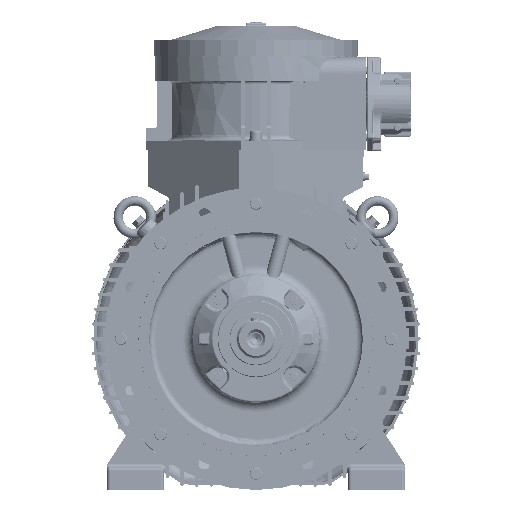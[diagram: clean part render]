
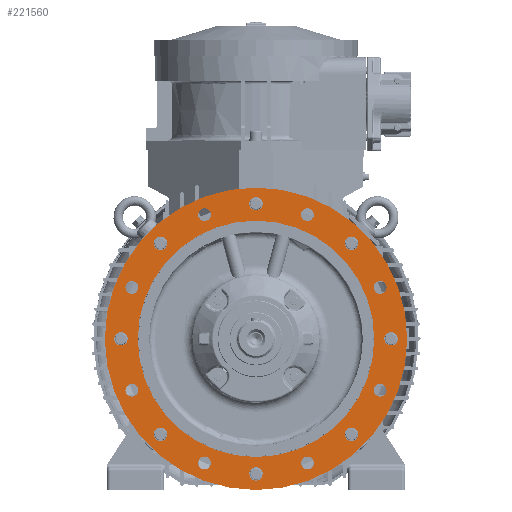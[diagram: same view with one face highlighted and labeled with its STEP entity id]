
A CAD part, left-side view. The second image highlights one B-rep face of the part: STEP entity #221560.
In plain terms, the highlighted planar face has unit normal (-1, 0, 0).
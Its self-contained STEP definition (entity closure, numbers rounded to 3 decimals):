
#38364=PLANE('',#233683);
#42128=CIRCLE('',#233607,9.5);
#42130=CIRCLE('',#233610,9.5);
#42132=CIRCLE('',#233613,9.5);
#42134=CIRCLE('',#233616,9.5);
#42136=CIRCLE('',#233619,9.5);
#42138=CIRCLE('',#233622,9.5);
#42140=CIRCLE('',#233625,9.5);
#42142=CIRCLE('',#233628,9.5);
#42143=CIRCLE('',#233630,175.919);
#42147=CIRCLE('',#233640,10.);
#42149=CIRCLE('',#233644,10.);
#42151=CIRCLE('',#233648,10.);
#42153=CIRCLE('',#233652,10.);
#42155=CIRCLE('',#233656,10.);
#42157=CIRCLE('',#233660,10.);
#42159=CIRCLE('',#233664,10.);
#42161=CIRCLE('',#233668,10.);
#42167=CIRCLE('',#233684,225.);
#80612=ORIENTED_EDGE('',*,*,#107318,.F.);
#80613=ORIENTED_EDGE('',*,*,#107286,.T.);
#80614=ORIENTED_EDGE('',*,*,#107284,.T.);
#80615=ORIENTED_EDGE('',*,*,#107282,.T.);
#80616=ORIENTED_EDGE('',*,*,#107280,.T.);
#80617=ORIENTED_EDGE('',*,*,#107278,.T.);
#80618=ORIENTED_EDGE('',*,*,#107276,.T.);
#80619=ORIENTED_EDGE('',*,*,#107274,.T.);
#80620=ORIENTED_EDGE('',*,*,#107272,.T.);
#80621=ORIENTED_EDGE('',*,*,#107268,.T.);
#80622=ORIENTED_EDGE('',*,*,#107267,.F.);
#80623=ORIENTED_EDGE('',*,*,#107265,.F.);
#80624=ORIENTED_EDGE('',*,*,#107263,.F.);
#80625=ORIENTED_EDGE('',*,*,#107261,.F.);
#80626=ORIENTED_EDGE('',*,*,#107259,.F.);
#80627=ORIENTED_EDGE('',*,*,#107257,.F.);
#80628=ORIENTED_EDGE('',*,*,#107255,.F.);
#80629=ORIENTED_EDGE('',*,*,#107253,.F.);
#107253=EDGE_CURVE('',#123496,#123496,#42128,.T.);
#107255=EDGE_CURVE('',#123498,#123498,#42130,.T.);
#107257=EDGE_CURVE('',#123500,#123500,#42132,.T.);
#107259=EDGE_CURVE('',#123502,#123502,#42134,.T.);
#107261=EDGE_CURVE('',#123504,#123504,#42136,.T.);
#107263=EDGE_CURVE('',#123506,#123506,#42138,.T.);
#107265=EDGE_CURVE('',#123508,#123508,#42140,.T.);
#107267=EDGE_CURVE('',#123510,#123510,#42142,.T.);
#107268=EDGE_CURVE('',#123511,#123511,#42143,.T.);
#107272=EDGE_CURVE('',#123515,#123515,#42147,.T.);
#107274=EDGE_CURVE('',#123517,#123517,#42149,.T.);
#107276=EDGE_CURVE('',#123519,#123519,#42151,.T.);
#107278=EDGE_CURVE('',#123521,#123521,#42153,.T.);
#107280=EDGE_CURVE('',#123523,#123523,#42155,.T.);
#107282=EDGE_CURVE('',#123525,#123525,#42157,.T.);
#107284=EDGE_CURVE('',#123527,#123527,#42159,.T.);
#107286=EDGE_CURVE('',#123529,#123529,#42161,.T.);
#107318=EDGE_CURVE('',#123555,#123555,#42167,.T.);
#123496=VERTEX_POINT('',#333248);
#123498=VERTEX_POINT('',#333253);
#123500=VERTEX_POINT('',#333258);
#123502=VERTEX_POINT('',#333263);
#123504=VERTEX_POINT('',#333268);
#123506=VERTEX_POINT('',#333273);
#123508=VERTEX_POINT('',#333278);
#123510=VERTEX_POINT('',#333283);
#123511=VERTEX_POINT('',#333286);
#123515=VERTEX_POINT('',#333300);
#123517=VERTEX_POINT('',#333306);
#123519=VERTEX_POINT('',#333312);
#123521=VERTEX_POINT('',#333318);
#123523=VERTEX_POINT('',#333324);
#123525=VERTEX_POINT('',#333330);
#123527=VERTEX_POINT('',#333336);
#123529=VERTEX_POINT('',#333342);
#123555=VERTEX_POINT('',#333410);
#136997=EDGE_LOOP('',(#80612));
#136998=EDGE_LOOP('',(#80613));
#136999=EDGE_LOOP('',(#80614));
#137000=EDGE_LOOP('',(#80615));
#137001=EDGE_LOOP('',(#80616));
#137002=EDGE_LOOP('',(#80617));
#137003=EDGE_LOOP('',(#80618));
#137004=EDGE_LOOP('',(#80619));
#137005=EDGE_LOOP('',(#80620));
#137006=EDGE_LOOP('',(#80621));
#137007=EDGE_LOOP('',(#80622));
#137008=EDGE_LOOP('',(#80623));
#137009=EDGE_LOOP('',(#80624));
#137010=EDGE_LOOP('',(#80625));
#137011=EDGE_LOOP('',(#80626));
#137012=EDGE_LOOP('',(#80627));
#137013=EDGE_LOOP('',(#80628));
#137014=EDGE_LOOP('',(#80629));
#148947=FACE_BOUND('',#136997,.T.);
#148948=FACE_BOUND('',#136998,.T.);
#148949=FACE_BOUND('',#136999,.T.);
#148950=FACE_BOUND('',#137000,.T.);
#148951=FACE_BOUND('',#137001,.T.);
#148952=FACE_BOUND('',#137002,.T.);
#148953=FACE_BOUND('',#137003,.T.);
#148954=FACE_BOUND('',#137004,.T.);
#148955=FACE_BOUND('',#137005,.T.);
#148956=FACE_BOUND('',#137006,.T.);
#148957=FACE_BOUND('',#137007,.T.);
#148958=FACE_BOUND('',#137008,.T.);
#148959=FACE_BOUND('',#137009,.T.);
#148960=FACE_BOUND('',#137010,.T.);
#148961=FACE_BOUND('',#137011,.T.);
#148962=FACE_BOUND('',#137012,.T.);
#148963=FACE_BOUND('',#137013,.T.);
#148964=FACE_BOUND('',#137014,.T.);
#221560=ADVANCED_FACE('',(#148947,#148948,#148949,#148950,#148951,#148952,
#148953,#148954,#148955,#148956,#148957,#148958,#148959,#148960,#148961,
#148962,#148963,#148964),#38364,.F.);
#233607=AXIS2_PLACEMENT_3D('',#333247,#270965,#270966);
#233610=AXIS2_PLACEMENT_3D('',#333252,#270971,#270972);
#233613=AXIS2_PLACEMENT_3D('',#333257,#270977,#270978);
#233616=AXIS2_PLACEMENT_3D('',#333262,#270983,#270984);
#233619=AXIS2_PLACEMENT_3D('',#333267,#270989,#270990);
#233622=AXIS2_PLACEMENT_3D('',#333272,#270995,#270996);
#233625=AXIS2_PLACEMENT_3D('',#333277,#271001,#271002);
#233628=AXIS2_PLACEMENT_3D('',#333282,#271007,#271008);
#233630=AXIS2_PLACEMENT_3D('',#333285,#271011,#271012);
#233640=AXIS2_PLACEMENT_3D('',#333299,#271031,#271032);
#233644=AXIS2_PLACEMENT_3D('',#333305,#271039,#271040);
#233648=AXIS2_PLACEMENT_3D('',#333311,#271047,#271048);
#233652=AXIS2_PLACEMENT_3D('',#333317,#271055,#271056);
#233656=AXIS2_PLACEMENT_3D('',#333323,#271063,#271064);
#233660=AXIS2_PLACEMENT_3D('',#333329,#271071,#271072);
#233664=AXIS2_PLACEMENT_3D('',#333335,#271079,#271080);
#233668=AXIS2_PLACEMENT_3D('',#333341,#271087,#271088);
#233683=AXIS2_PLACEMENT_3D('',#333408,#271143,#271144);
#233684=AXIS2_PLACEMENT_3D('',#333409,#271145,#271146);
#270965=DIRECTION('',(-1.,0.,0.));
#270966=DIRECTION('',(0.,-1.,0.));
#270971=DIRECTION('',(-1.,0.,0.));
#270972=DIRECTION('',(0.,-1.,0.));
#270977=DIRECTION('',(-1.,0.,0.));
#270978=DIRECTION('',(0.,-1.,0.));
#270983=DIRECTION('',(-1.,0.,0.));
#270984=DIRECTION('',(0.,-1.,0.));
#270989=DIRECTION('',(-1.,0.,0.));
#270990=DIRECTION('',(0.,-1.,0.));
#270995=DIRECTION('',(-1.,0.,0.));
#270996=DIRECTION('',(0.,-1.,0.));
#271001=DIRECTION('',(-1.,0.,0.));
#271002=DIRECTION('',(0.,-1.,0.));
#271007=DIRECTION('',(-1.,0.,0.));
#271008=DIRECTION('',(0.,-1.,0.));
#271011=DIRECTION('',(1.,0.,0.));
#271012=DIRECTION('',(0.,0.,1.));
#271031=DIRECTION('',(1.,0.,0.));
#271032=DIRECTION('',(0.,0.,-1.));
#271039=DIRECTION('',(1.,0.,0.));
#271040=DIRECTION('',(0.,0.,-1.));
#271047=DIRECTION('',(1.,0.,0.));
#271048=DIRECTION('',(0.,0.,-1.));
#271055=DIRECTION('',(1.,0.,0.));
#271056=DIRECTION('',(0.,0.,-1.));
#271063=DIRECTION('',(1.,0.,0.));
#271064=DIRECTION('',(0.,0.,-1.));
#271071=DIRECTION('',(1.,0.,0.));
#271072=DIRECTION('',(0.,0.,-1.));
#271079=DIRECTION('',(1.,0.,0.));
#271080=DIRECTION('',(0.,0.,-1.));
#271087=DIRECTION('',(1.,0.,0.));
#271088=DIRECTION('',(0.,0.,-1.));
#271143=DIRECTION('',(1.,0.,0.));
#271144=DIRECTION('',(0.,0.,1.));
#271145=DIRECTION('',(1.,0.,0.));
#271146=DIRECTION('',(0.,0.,1.));
#333247=CARTESIAN_POINT('',(-84.5,184.776,-76.537));
#333248=CARTESIAN_POINT('',(-84.5,175.276,-76.537));
#333252=CARTESIAN_POINT('',(-84.5,76.537,-184.776));
#333253=CARTESIAN_POINT('',(-84.5,67.037,-184.776));
#333257=CARTESIAN_POINT('',(-84.5,-76.537,-184.776));
#333258=CARTESIAN_POINT('',(-84.5,-86.037,-184.776));
#333262=CARTESIAN_POINT('',(-84.5,-184.776,-76.537));
#333263=CARTESIAN_POINT('',(-84.5,-194.276,-76.537));
#333267=CARTESIAN_POINT('',(-84.5,-184.776,76.537));
#333268=CARTESIAN_POINT('',(-84.5,-194.276,76.537));
#333272=CARTESIAN_POINT('',(-84.5,-76.537,184.776));
#333273=CARTESIAN_POINT('',(-84.5,-86.037,184.776));
#333277=CARTESIAN_POINT('',(-84.5,76.537,184.776));
#333278=CARTESIAN_POINT('',(-84.5,67.037,184.776));
#333282=CARTESIAN_POINT('',(-84.5,184.776,76.537));
#333283=CARTESIAN_POINT('',(-84.5,175.276,76.537));
#333285=CARTESIAN_POINT('',(-84.5,0.,0.));
#333286=CARTESIAN_POINT('',(-84.5,0.,175.919));
#333299=CARTESIAN_POINT('',(-84.5,142.128,142.128));
#333300=CARTESIAN_POINT('',(-84.5,142.128,132.128));
#333305=CARTESIAN_POINT('',(-84.5,201.,0.));
#333306=CARTESIAN_POINT('',(-84.5,201.,-10.));
#333311=CARTESIAN_POINT('',(-84.5,142.128,-142.128));
#333312=CARTESIAN_POINT('',(-84.5,142.128,-152.128));
#333317=CARTESIAN_POINT('',(-84.5,0.,-201.));
#333318=CARTESIAN_POINT('',(-84.5,0.,-211.));
#333323=CARTESIAN_POINT('',(-84.5,-142.128,-142.128));
#333324=CARTESIAN_POINT('',(-84.5,-142.128,-152.128));
#333329=CARTESIAN_POINT('',(-84.5,-201.,0.));
#333330=CARTESIAN_POINT('',(-84.5,-201.,-10.));
#333335=CARTESIAN_POINT('',(-84.5,-142.128,142.128));
#333336=CARTESIAN_POINT('',(-84.5,-142.128,132.128));
#333341=CARTESIAN_POINT('',(-84.5,0.,201.));
#333342=CARTESIAN_POINT('',(-84.5,0.,191.));
#333408=CARTESIAN_POINT('',(-84.5,0.,242.195));
#333409=CARTESIAN_POINT('',(-84.5,0.,0.));
#333410=CARTESIAN_POINT('',(-84.5,0.,225.));
